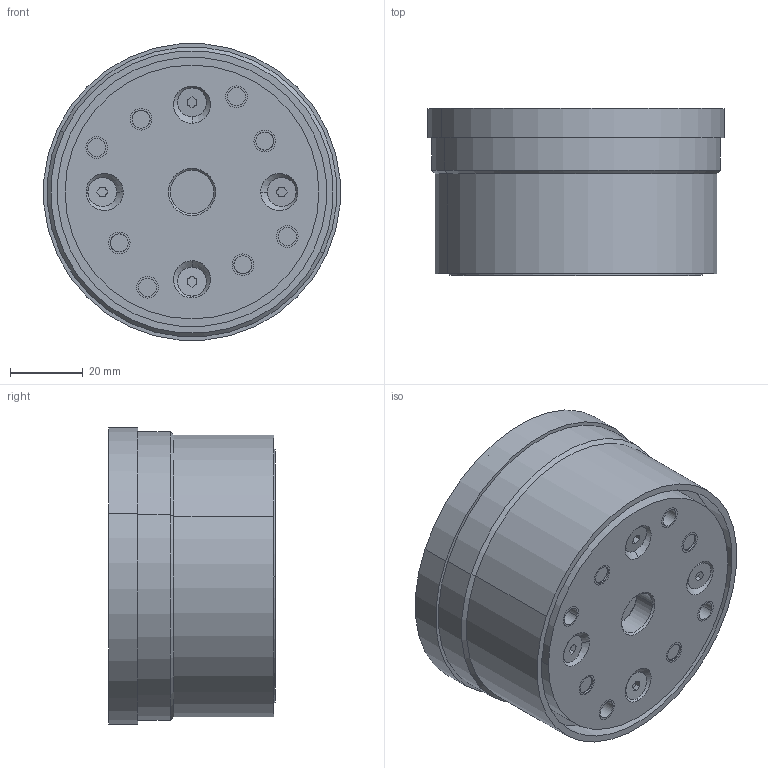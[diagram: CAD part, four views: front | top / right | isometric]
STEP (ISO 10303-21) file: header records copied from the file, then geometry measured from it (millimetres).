
FILE_DESCRIPTION((''),'2;1');
FILE_NAME('BS6-080-070','2018-02-27T',('CSW'),(''),'CREO PARAMETRIC BY PTC INC, 2016260','CREO PARAMETRIC BY PTC INC, 2016260','');
FILE_SCHEMA(('AUTOMOTIVE_DESIGN { 1 0 10303 214 1 1 1 1 }'));
Length unit declared in the file: millimetre
Products named in the file (1): BS6-080-070
Bounding box: 81.69 x 46 x 81.69 mm (x, y, z)
Volume: 218964.4 mm3; surface area: 31813 mm2
Topology: 1 solids, 53 shells, 525 faces, 1160 edges, 722 vertices
Faces by surface type: cylinder 218, plane 211, cone 80, torus 16
Entity records: 14783 total; most frequent: CARTESIAN_POINT 2753, DIRECTION 2710, ORIENTED_EDGE 2160, EDGE_CURVE 1144, AXIS2_PLACEMENT_3D 1072, VERTEX_POINT 722, EDGE_LOOP 610, VECTOR 566
